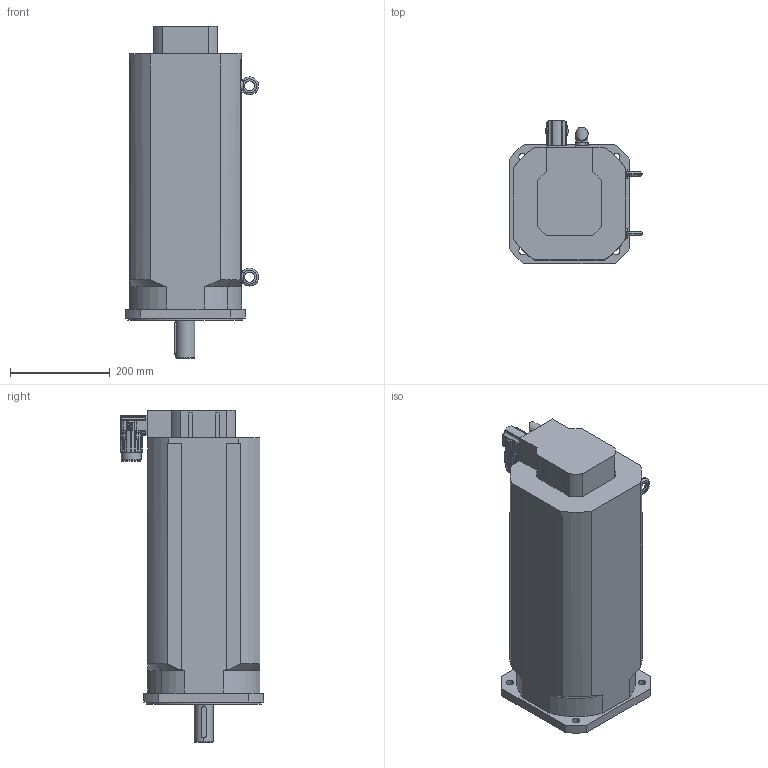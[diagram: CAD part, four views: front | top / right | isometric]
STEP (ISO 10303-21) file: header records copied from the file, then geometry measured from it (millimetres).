
FILE_DESCRIPTION(('STEP AP203'),'2;1');
FILE_NAME('MT8-1150_BX.stp','2006-08-28T21:00:48',(''),(''),'2005.2.102','THINKDESIGN','');
FILE_SCHEMA(('CONFIG_CONTROL_DESIGN'));
Length unit declared in the file: millimetre
Bounding box: 266.5 x 287.18 x 665 mm (x, y, z)
Volume: 26425085.1 mm3; surface area: 631823.7 mm2
Topology: 5 solids, 5 shells, 534 faces, 1442 edges, 929 vertices
Faces by surface type: cylinder 259, plane 194, bspline 81
Full cylindrical faces by diameter (mm): 20 x2, 23 x1, 37.8 x1, 40 x1
Entity records: 19287 total; most frequent: CARTESIAN_POINT 5926, ORIENTED_EDGE 2872, DIRECTION 2774, EDGE_CURVE 1436, AXIS2_PLACEMENT_3D 1055, VERTEX_POINT 929, VECTOR 664, LINE 664
